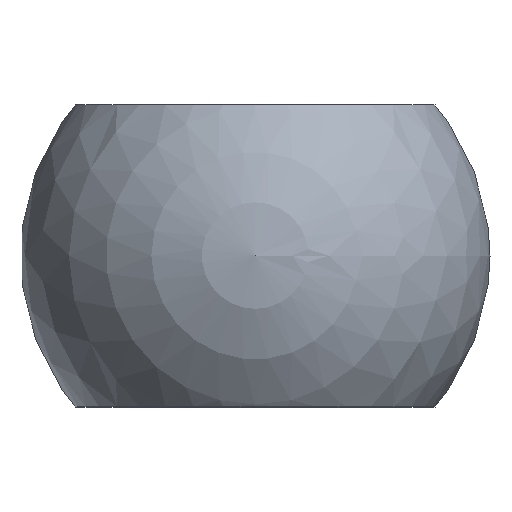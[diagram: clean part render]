
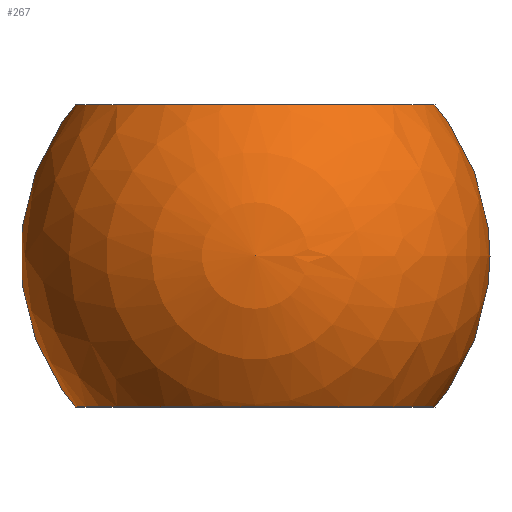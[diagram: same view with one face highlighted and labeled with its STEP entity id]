
A CAD part, top view. The second image highlights one B-rep face of the part: STEP entity #267.
In plain terms, the highlighted spherical face has radius 14 mm.
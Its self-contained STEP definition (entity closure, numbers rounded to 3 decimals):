
#22=SPHERICAL_SURFACE('',#314,14.);
#53=ORIENTED_EDGE('',*,*,#96,.T.);
#54=ORIENTED_EDGE('',*,*,#94,.T.);
#55=ORIENTED_EDGE('',*,*,#92,.T.);
#92=EDGE_CURVE('',#116,#116,#140,.F.);
#94=EDGE_CURVE('',#118,#118,#142,.F.);
#96=EDGE_CURVE('',#120,#120,#144,.T.);
#116=VERTEX_POINT('',#458);
#118=VERTEX_POINT('',#463);
#120=VERTEX_POINT('',#468);
#140=CIRCLE('',#309,10.724);
#142=CIRCLE('',#312,10.724);
#144=CIRCLE('',#315,8.192);
#172=EDGE_LOOP('',(#53));
#173=EDGE_LOOP('',(#54));
#174=EDGE_LOOP('',(#55));
#220=FACE_BOUND('',#172,.T.);
#221=FACE_BOUND('',#173,.T.);
#222=FACE_BOUND('',#174,.T.);
#267=ADVANCED_FACE('',(#220,#221,#222),#22,.T.);
#309=AXIS2_PLACEMENT_3D('',#457,#371,#372);
#312=AXIS2_PLACEMENT_3D('',#462,#377,#378);
#314=AXIS2_PLACEMENT_3D('',#466,#381,#382);
#315=AXIS2_PLACEMENT_3D('',#467,#383,#384);
#371=DIRECTION('',(0.,-1.,0.));
#372=DIRECTION('',(1.,0.,0.));
#377=DIRECTION('',(0.,1.,0.));
#378=DIRECTION('',(-1.,0.,0.));
#381=DIRECTION('',(0.,0.,-1.));
#382=DIRECTION('',(1.,0.,0.));
#383=DIRECTION('',(0.,0.,1.));
#384=DIRECTION('',(0.,1.,0.));
#457=CARTESIAN_POINT('',(0.,-9.,115.6));
#458=CARTESIAN_POINT('',(10.724,-9.,115.6));
#462=CARTESIAN_POINT('',(0.,9.,115.6));
#463=CARTESIAN_POINT('',(-10.724,9.,115.6));
#466=CARTESIAN_POINT('',(0.,0.,115.6));
#467=CARTESIAN_POINT('',(0.,0.,104.247));
#468=CARTESIAN_POINT('',(0.,8.192,104.247));
